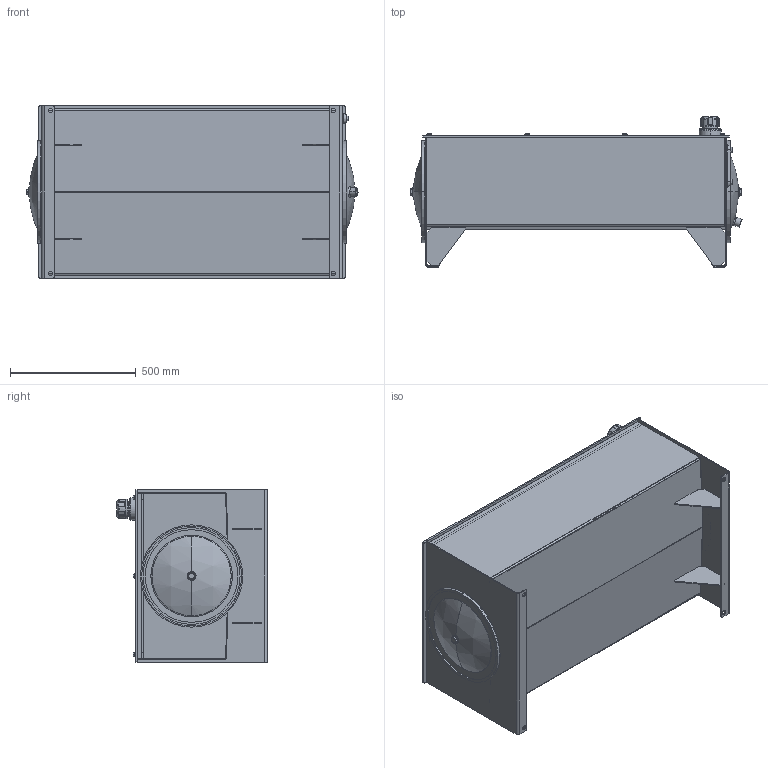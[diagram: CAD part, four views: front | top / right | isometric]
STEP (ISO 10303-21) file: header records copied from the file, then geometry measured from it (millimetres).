
FILE_DESCRIPTION (( 'STEP AP203' ), '1' );
FILE_NAME ('RJIC060-RT.STEP', '2015-01-08T15:46:16', ( '' ), ( '' ), 'SwSTEP 2.0', 'SolidWorks 2014', '' );
FILE_SCHEMA (( 'CONFIG_CONTROL_DESIGN' ));
Length unit declared in the file: inch
Products named in the file (1): RJIC060-RT
Bounding box: 1319.33 x 597.22 x 685.8 mm (x, y, z)
Volume: 17416581.9 mm3; surface area: 8329414.3 mm2
Topology: 48 solids, 48 shells, 1049 faces, 2381 edges, 1452 vertices
Faces by surface type: plane 396, cylinder 346, torus 123, cone 104, bspline 48, sphere 32
Entity records: 32438 total; most frequent: CARTESIAN_POINT 8332, DIRECTION 5342, ORIENTED_EDGE 4738, EDGE_CURVE 2369, AXIS2_PLACEMENT_3D 2119, VERTEX_POINT 1452, EDGE_LOOP 1197, CIRCLE 1117
